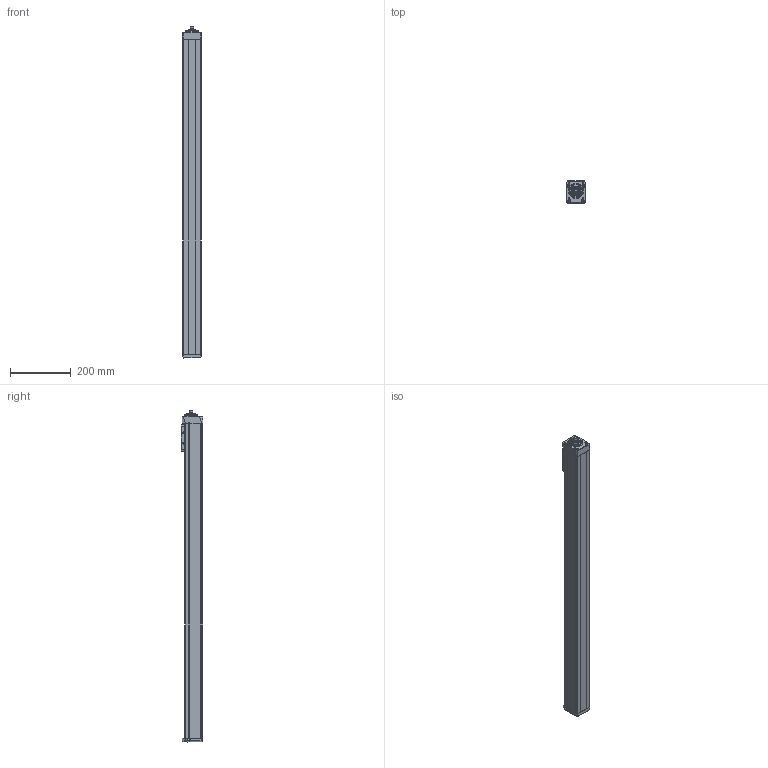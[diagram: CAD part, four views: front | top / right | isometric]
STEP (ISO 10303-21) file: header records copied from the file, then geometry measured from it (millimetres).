
FILE_DESCRIPTION(/* description */ ('STEP AP214'),/* implementation_level */ '2;1');
FILE_NAME(/* name */ 'MGBS 60 1210 900(0)',/* time_stamp */ '2023-04-17T13:21:34+02:00',/* author */ ('License CC BY-ND 4.0'),/* organization */ ('CADENAS'),/* preprocessor_version */ 'ST-DEVELOPER v19.3',/* originating_system */ 'PARTsolutions',/* authorisation */ ' ');
FILE_SCHEMA (('AUTOMOTIVE_DESIGN {1 0 10303 214 3 1 1}'));
Length unit declared in the file: millimetre
Products named in the file (6): MGBS 60 1210 900(0); MGBS 60 900_protection_strip; MGBS 60_carriage; MGBS 60_end_block; MGBS 60 900_profile; MGBS 60_drive_block
Assembly tree (5 placements, depth 2):
  MGBS 60 1210 900(0)
    MGBS 60 900_protection_strip
    MGBS 60_carriage
    MGBS 60_end_block
    MGBS 60 900_profile
    MGBS 60_drive_block
Bounding box: 60 x 72 x 1092 mm (x, y, z)
Volume: 3749277.5 mm3; surface area: 450588.6 mm2
Topology: 5 solids, 5 shells, 694 faces, 1756 edges, 1135 vertices
Faces by surface type: plane 366, cylinder 144, cone 97, bspline 62, torus 23, sphere 2
Full cylindrical faces by diameter (mm): 2.459 x2, 2.46 x2, 3.242 x4, 4 x14, 4.134 x8, 4.8 x2, 5 x2, 5.5 x4, 7 x8, 7.6 x4, 8 x2, 10 x1, 11 x3, 23.8 x1, 30 x1, 42 x2, 50.2 x1
Entity records: 24817 total; most frequent: CARTESIAN_POINT 4104, DIRECTION 3372, ORIENTED_EDGE 3194, EDGE_CURVE 1597, AXIS2_PLACEMENT_3D 1197, VERTEX_POINT 1113, LINE 978, VECTOR 978
